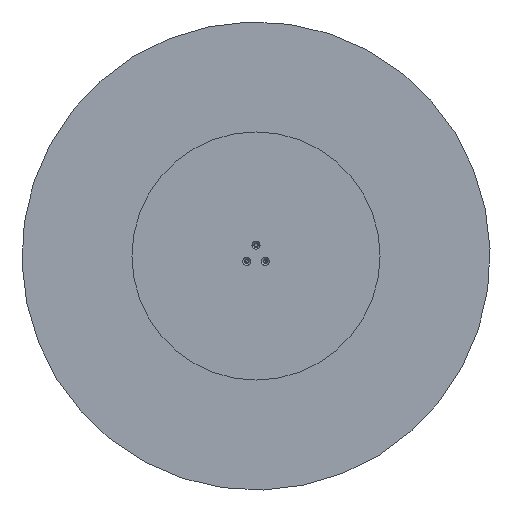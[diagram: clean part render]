
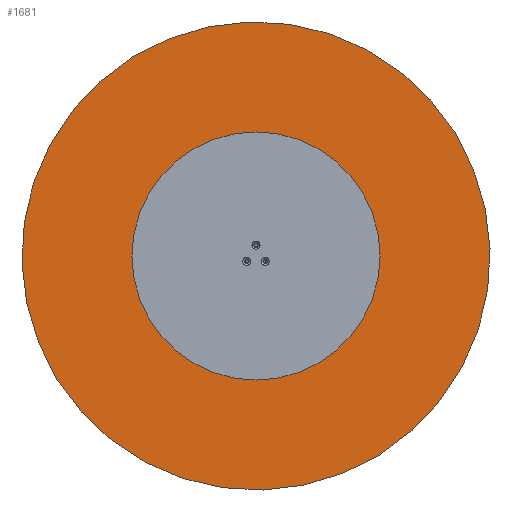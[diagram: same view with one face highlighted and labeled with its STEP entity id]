
A CAD part, front view. The second image highlights one B-rep face of the part: STEP entity #1681.
In plain terms, the highlighted planar face has unit normal (0, -1, 0).
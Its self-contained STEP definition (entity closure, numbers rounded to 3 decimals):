
#3 = PLANE ( 'NONE',  #1813 ) ;
#128 = EDGE_CURVE ( 'NONE', #3037, #1812, #656, .T. ) ;
#278 = DIRECTION ( 'NONE',  ( 0., -1., 0. ) ) ;
#394 = ORIENTED_EDGE ( 'NONE', *, *, #1522, .T. ) ;
#637 = CARTESIAN_POINT ( 'NONE',  ( 0., 0., 0. ) ) ;
#656 = CIRCLE ( 'NONE', #2635, 500. ) ;
#1229 = DIRECTION ( 'NONE',  ( 0., -1., 0. ) ) ;
#1254 = CARTESIAN_POINT ( 'NONE',  ( 0., 0., 0. ) ) ;
#1483 = CIRCLE ( 'NONE', #4203, 500. ) ;
#1522 = EDGE_CURVE ( 'NONE', #1812, #3037, #1483, .T. ) ;
#1681 = ADVANCED_FACE ( 'NONE', ( #3610 ), #3, .T. ) ;
#1696 = CARTESIAN_POINT ( 'NONE',  ( 0., 0., 500. ) ) ;
#1812 = VERTEX_POINT ( 'NONE', #3990 ) ;
#1813 = AXIS2_PLACEMENT_3D ( 'NONE', #1254, #2567, #3525 ) ;
#2455 = ORIENTED_EDGE ( 'NONE', *, *, #128, .T. ) ;
#2567 = DIRECTION ( 'NONE',  ( 0., -1., 0. ) ) ;
#2635 = AXIS2_PLACEMENT_3D ( 'NONE', #637, #278, #3251 ) ;
#2785 = CARTESIAN_POINT ( 'NONE',  ( 0., 0., 0. ) ) ;
#3037 = VERTEX_POINT ( 'NONE', #1696 ) ;
#3251 = DIRECTION ( 'NONE',  ( 0., 0., -1. ) ) ;
#3525 = DIRECTION ( 'NONE',  ( 0., 0., -1. ) ) ;
#3610 = FACE_OUTER_BOUND ( 'NONE', #4193, .T. ) ;
#3816 = DIRECTION ( 'NONE',  ( 0., 0., -1. ) ) ;
#3990 = CARTESIAN_POINT ( 'NONE',  ( 0., 0., -500. ) ) ;
#4193 = EDGE_LOOP ( 'NONE', ( #394, #2455 ) ) ;
#4203 = AXIS2_PLACEMENT_3D ( 'NONE', #2785, #1229, #3816 ) ;
